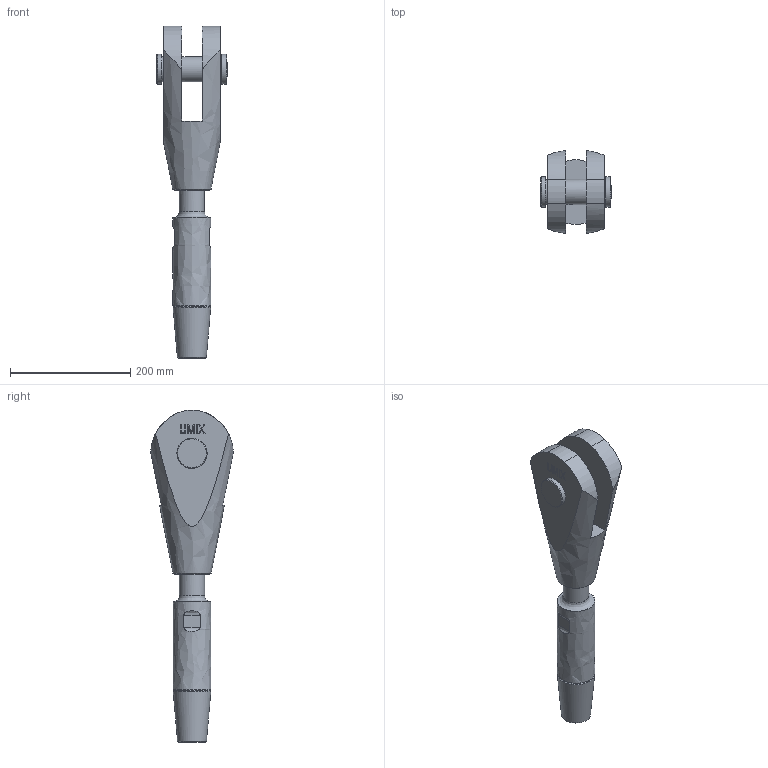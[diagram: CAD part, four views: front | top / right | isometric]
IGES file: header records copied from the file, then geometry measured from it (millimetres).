
Global section: file name: 520-042-GAK-ADA; native system: Autodesk Inventor 2016; preprocessor: unknown; author: Administrator; date: 20200703.130951; units: centimetre
Bounding box: 116.44 x 136.98 x 552 mm (x, y, z)
Volume: 2362139.9 mm3; surface area: 213398.8 mm2
Topology: 2 solids, 4 shells, 199 faces, 523 edges, 352 vertices
Faces by surface type: bspline 199
